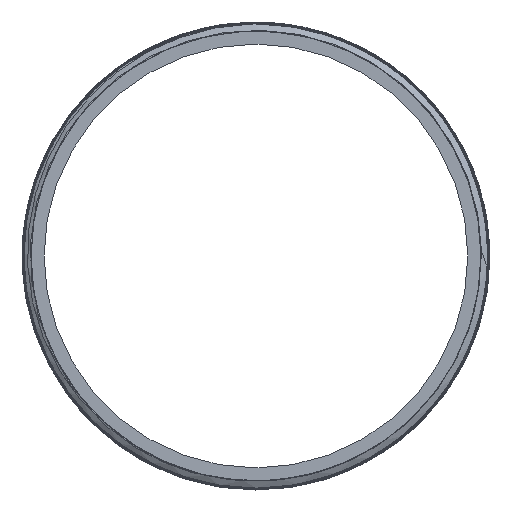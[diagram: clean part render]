
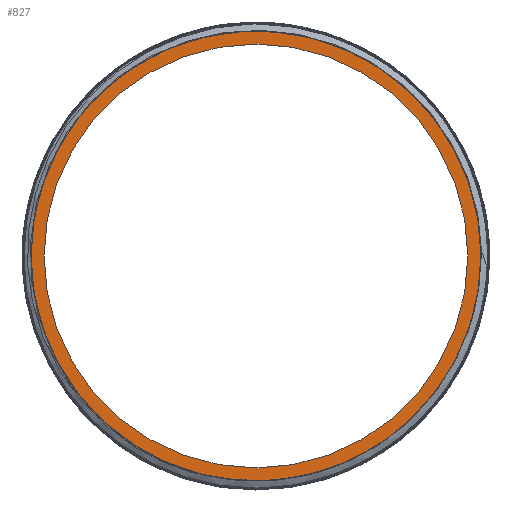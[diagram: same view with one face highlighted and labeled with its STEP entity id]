
A CAD part, left-side view. The second image highlights one B-rep face of the part: STEP entity #827.
In plain terms, the highlighted planar face has unit normal (-1, 0, 0).
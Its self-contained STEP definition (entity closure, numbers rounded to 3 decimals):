
#158 = VERTEX_POINT ( 'NONE', #9018 ) ;
#198 = CARTESIAN_POINT ( 'NONE',  ( -500., -18.816, -7.879 ) ) ;
#338 = ORIENTED_EDGE ( 'NONE', *, *, #7768, .T. ) ;
#377 = CARTESIAN_POINT ( 'NONE',  ( -500., -19.064, -7.258 ) ) ;
#480 = CARTESIAN_POINT ( 'NONE',  ( -500., 0., -19.2 ) ) ;
#557 = AXIS2_PLACEMENT_3D ( 'NONE', #2454, #581, #6980 ) ;
#581 = DIRECTION ( 'NONE',  ( -1., 0., 0. ) ) ;
#671 = EDGE_CURVE ( 'NONE', #158, #5886, #9735, .T. ) ;
#709 = DIRECTION ( 'NONE',  ( 1., 0., 0. ) ) ;
#750 = CARTESIAN_POINT ( 'NONE',  ( -500., -5.848, -19.543 ) ) ;
#813 = CARTESIAN_POINT ( 'NONE',  ( -500., -16.947, -11.412 ) ) ;
#827 = ADVANCED_FACE ( 'NONE', ( #6079, #8924 ), #7888, .F. ) ;
#980 = EDGE_CURVE ( 'NONE', #10412, #8612, #9661, .T. ) ;
#994 = CARTESIAN_POINT ( 'NONE',  ( -500., -12.882, -15.817 ) ) ;
#1146 = CARTESIAN_POINT ( 'NONE',  ( -500., 3.746, -20.087 ) ) ;
#1285 = CARTESIAN_POINT ( 'NONE',  ( -500., 0., 0. ) ) ;
#1658 = CARTESIAN_POINT ( 'NONE',  ( -500., -2.589, -20.234 ) ) ;
#1666 = CIRCLE ( 'NONE', #11705, 20.45 ) ;
#1720 = CARTESIAN_POINT ( 'NONE',  ( -500., -17.954, -9.684 ) ) ;
#1795 = VERTEX_POINT ( 'NONE', #2321 ) ;
#2092 = ORIENTED_EDGE ( 'NONE', *, *, #4391, .T. ) ;
#2321 = CARTESIAN_POINT ( 'NONE',  ( -500., -20.203, -2.738 ) ) ;
#2454 = CARTESIAN_POINT ( 'NONE',  ( -500., 0., 0. ) ) ;
#2625 = CARTESIAN_POINT ( 'NONE',  ( -500., -14.835, -14.002 ) ) ;
#2824 = ORIENTED_EDGE ( 'NONE', *, *, #671, .T. ) ;
#3177 = DIRECTION ( 'NONE',  ( 0., 0., 1. ) ) ;
#3263 = CIRCLE ( 'NONE', #557, 19.2 ) ;
#3657 = EDGE_CURVE ( 'NONE', #8612, #10412, #3263, .T. ) ;
#3658 = CARTESIAN_POINT ( 'NONE',  ( -500., 1.415, -20.383 ) ) ;
#3837 = CARTESIAN_POINT ( 'NONE',  ( -500., -20.203, -2.738 ) ) ;
#3931 = CARTESIAN_POINT ( 'NONE',  ( -500., 2.738, -20.203 ) ) ;
#4020 = CARTESIAN_POINT ( 'NONE',  ( -500., -19.498, -5.995 ) ) ;
#4185 = DIRECTION ( 'NONE',  ( -1., 0., 0. ) ) ;
#4301 = DIRECTION ( 'NONE',  ( 0., 0., 1. ) ) ;
#4391 = EDGE_CURVE ( 'NONE', #5886, #1795, #8253, .T. ) ;
#4610 = B_SPLINE_CURVE_WITH_KNOTS ( 'NONE', 3,
 ( #5236, #6072, #5121, #6194 ),
 .UNSPECIFIED., .F., .F.,
 ( 4, 4 ),
 ( 0., 0.003 ),
 .UNSPECIFIED. ) ;
#5101 = CARTESIAN_POINT ( 'NONE',  ( -500., 0., 0. ) ) ;
#5121 = CARTESIAN_POINT ( 'NONE',  ( -500., -20.446, -0.646 ) ) ;
#5236 = CARTESIAN_POINT ( 'NONE',  ( -500., -20.203, -2.738 ) ) ;
#5244 = CARTESIAN_POINT ( 'NONE',  ( -500., 19.2, 0. ) ) ;
#5304 = EDGE_LOOP ( 'NONE', ( #338, #2824, #2092, #9640 ) ) ;
#5530 = CARTESIAN_POINT ( 'NONE',  ( -500., -4.557, -19.883 ) ) ;
#5735 = CARTESIAN_POINT ( 'NONE',  ( -500., 5.715, -19.635 ) ) ;
#5886 = VERTEX_POINT ( 'NONE', #11460 ) ;
#5943 = DIRECTION ( 'NONE',  ( -1., 0., 0. ) ) ;
#6072 = CARTESIAN_POINT ( 'NONE',  ( -500., -20.366, -1.698 ) ) ;
#6079 = FACE_BOUND ( 'NONE', #8249, .T. ) ;
#6194 = CARTESIAN_POINT ( 'NONE',  ( -500., -20.446, 0.404 ) ) ;
#6378 = VERTEX_POINT ( 'NONE', #7300 ) ;
#6491 = CARTESIAN_POINT ( 'NONE',  ( -500., -11.288, -17.03 ) ) ;
#6541 = ORIENTED_EDGE ( 'NONE', *, *, #980, .F. ) ;
#6952 = AXIS2_PLACEMENT_3D ( 'NONE', #5101, #5943, #3177 ) ;
#6980 = DIRECTION ( 'NONE',  ( 0., 0., 1. ) ) ;
#7207 = CARTESIAN_POINT ( 'NONE',  ( -500., -13.394, -15.386 ) ) ;
#7300 = CARTESIAN_POINT ( 'NONE',  ( -500., -20.446, 0.404 ) ) ;
#7327 = CARTESIAN_POINT ( 'NONE',  ( -500., -1.925, -20.308 ) ) ;
#7387 = CARTESIAN_POINT ( 'NONE',  ( -500., -7.736, -18.875 ) ) ;
#7509 = CARTESIAN_POINT ( 'NONE',  ( -500., -20.114, -3.4 ) ) ;
#7686 = CARTESIAN_POINT ( 'NONE',  ( -500., -19.684, -5.353 ) ) ;
#7768 = EDGE_CURVE ( 'NONE', #6378, #158, #1666, .T. ) ;
#7888 = PLANE ( 'NONE',  #8108 ) ;
#8108 = AXIS2_PLACEMENT_3D ( 'NONE', #5244, #709, #8985 ) ;
#8114 = CARTESIAN_POINT ( 'NONE',  ( -500., -3.905, -20.022 ) ) ;
#8236 = CARTESIAN_POINT ( 'NONE',  ( -500., 2.738, -20.203 ) ) ;
#8249 = EDGE_LOOP ( 'NONE', ( #10613, #6541 ) ) ;
#8253 = B_SPLINE_CURVE_WITH_KNOTS ( 'NONE', 3,
 ( #8236, #3658, #9090, #7327, #1658, #8114, #5530, #750, #9207, #7387, #11098, #11822, #6491, #994, #7207, #10910, #2625, #10000, #813, #1720, #11882, #198, #377, #4020, #7686, #8541, #7509, #3837 ),
 .UNSPECIFIED., .F., .F.,
 ( 4, 2, 2, 2, 2, 2, 2, 2, 2, 2, 2, 2, 2, 4 ),
 ( 0., 0.004, 0.006, 0.008, 0.01, 0.012, 0.016, 0.018, 0.02, 0.024, 0.026, 0.028, 0.03, 0.032 ),
 .UNSPECIFIED. ) ;
#8541 = CARTESIAN_POINT ( 'NONE',  ( -500., -19.992, -4.056 ) ) ;
#8546 = EDGE_CURVE ( 'NONE', #1795, #6378, #4610, .T. ) ;
#8612 = VERTEX_POINT ( 'NONE', #10798 ) ;
#8924 = FACE_OUTER_BOUND ( 'NONE', #5304, .T. ) ;
#8985 = DIRECTION ( 'NONE',  ( 0., 0., -1. ) ) ;
#9018 = CARTESIAN_POINT ( 'NONE',  ( -500., 5.715, -19.635 ) ) ;
#9090 = CARTESIAN_POINT ( 'NONE',  ( -500., 0.074, -20.432 ) ) ;
#9207 = CARTESIAN_POINT ( 'NONE',  ( -500., -6.485, -19.341 ) ) ;
#9421 = CARTESIAN_POINT ( 'NONE',  ( -500., 4.738, -19.898 ) ) ;
#9640 = ORIENTED_EDGE ( 'NONE', *, *, #8546, .T. ) ;
#9661 = CIRCLE ( 'NONE', #6952, 19.2 ) ;
#9735 = B_SPLINE_CURVE_WITH_KNOTS ( 'NONE', 3,
 ( #5735, #9421, #1146, #3931 ),
 .UNSPECIFIED., .F., .F.,
 ( 4, 4 ),
 ( 0.024, 0.027 ),
 .UNSPECIFIED. ) ;
#10000 = CARTESIAN_POINT ( 'NONE',  ( -500., -16.161, -12.501 ) ) ;
#10412 = VERTEX_POINT ( 'NONE', #480 ) ;
#10613 = ORIENTED_EDGE ( 'NONE', *, *, #3657, .F. ) ;
#10798 = CARTESIAN_POINT ( 'NONE',  ( -500., 0., 19.2 ) ) ;
#10910 = CARTESIAN_POINT ( 'NONE',  ( -500., -14.37, -14.478 ) ) ;
#11098 = CARTESIAN_POINT ( 'NONE',  ( -500., -8.348, -18.613 ) ) ;
#11460 = CARTESIAN_POINT ( 'NONE',  ( -500., 2.738, -20.203 ) ) ;
#11705 = AXIS2_PLACEMENT_3D ( 'NONE', #1285, #4185, #4301 ) ;
#11822 = CARTESIAN_POINT ( 'NONE',  ( -500., -10.145, -17.735 ) ) ;
#11882 = CARTESIAN_POINT ( 'NONE',  ( -500., -18.26, -9.093 ) ) ;
